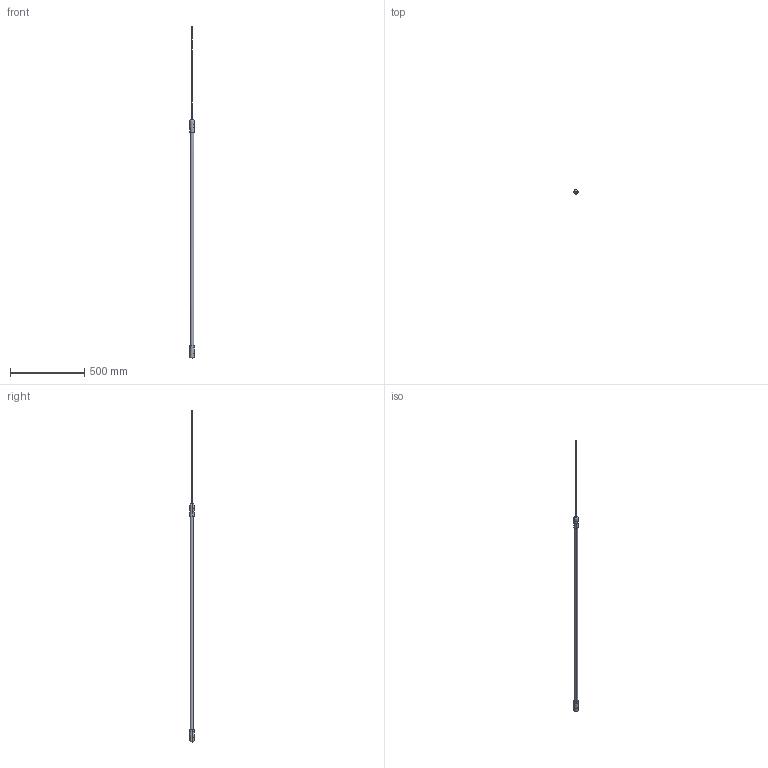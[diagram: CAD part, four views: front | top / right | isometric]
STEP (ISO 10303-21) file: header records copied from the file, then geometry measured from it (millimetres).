
FILE_DESCRIPTION(/* description */ (''),/* implementation_level */ '2;1');
FILE_NAME(/* name */ '1MD5SO~M',/* time_stamp */ '2026-03-05T15:49:15+01:00',/* author */ (''),/* organization */ (''),/* preprocessor_version */ 'ST-DEVELOPER v16.5',/* originating_system */ '',/* authorisation */ '');
FILE_SCHEMA (('AUTOMOTIVE_DESIGN'));
Length unit declared in the file: millimetre
Products named in the file (1): Document
Bounding box: 28.12 x 28.1 x 2231.26 mm (x, y, z)
Volume: 665919.3 mm3; surface area: 341269.7 mm2
Topology: 5 solids, 5 shells, 28 faces, 54 edges, 30 vertices
Faces by surface type: bspline 28
Entity records: 1823 total; most frequent: CARTESIAN_POINT 1164, ORIENTED_EDGE 100, PCURVE 100, DEFINITIONAL_REPRESENTATION 100, B_SPLINE_CURVE_WITH_KNOTS 98, SURFACE_CURVE 50, EDGE_CURVE 50, EDGE_LOOP 30
